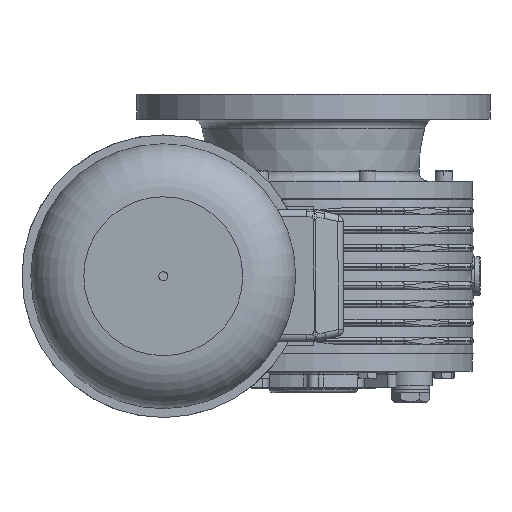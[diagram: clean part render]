
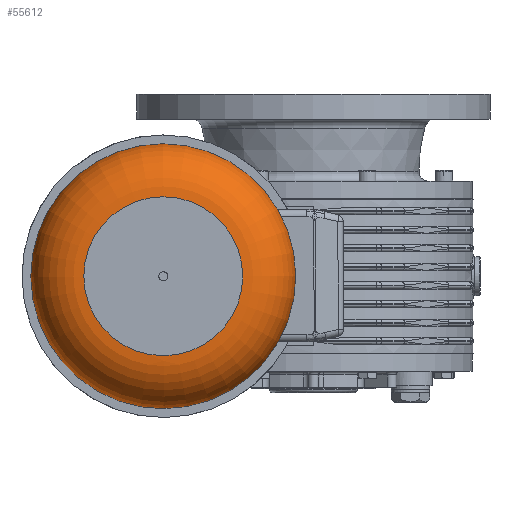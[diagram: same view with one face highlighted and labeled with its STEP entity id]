
A CAD part, left-side view. The second image highlights one B-rep face of the part: STEP entity #55612.
In plain terms, the highlighted toroidal (fillet/blend) face has major radius 45 mm and minor radius 30 mm.
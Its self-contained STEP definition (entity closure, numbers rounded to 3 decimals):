
#55585=CARTESIAN_POINT('',(314.0,0.0,0.0));
#55586=DIRECTION('',(1.0,0.0,0.0));
#55587=DIRECTION('',(0.0,0.0,-1.0));
#55588=AXIS2_PLACEMENT_3D('',#55585,#55586,#55587);
#55589=TOROIDAL_SURFACE('',#55588,45.,30.0);
#55590=CARTESIAN_POINT('',(344.0,45.,0.0));
#55591=VERTEX_POINT('',#55590);
#55592=CARTESIAN_POINT('',(344.0,0.0,0.0));
#55593=DIRECTION('',(1.0,0.0,0.0));
#55594=DIRECTION('',(0.0,1.0,0.0));
#55595=AXIS2_PLACEMENT_3D('',#55592,#55593,#55594);
#55596=CIRCLE('',#55595,45.);
#55597=EDGE_CURVE('',#55591,#55591,#55596,.T.);
#55598=ORIENTED_EDGE('',*,*,#55597,.F.);
#55599=EDGE_LOOP('',(#55598));
#55600=FACE_OUTER_BOUND('',#55599,.T.);
#55601=CARTESIAN_POINT('',(314.0,75.,0.0));
#55602=VERTEX_POINT('',#55601);
#55603=CARTESIAN_POINT('',(314.0,0.0,0.0));
#55604=DIRECTION('',(1.0,0.0,0.0));
#55605=DIRECTION('',(0.0,1.0,0.0));
#55606=AXIS2_PLACEMENT_3D('',#55603,#55604,#55605);
#55607=CIRCLE('',#55606,75.);
#55608=EDGE_CURVE('',#55602,#55602,#55607,.T.);
#55609=ORIENTED_EDGE('',*,*,#55608,.T.);
#55610=EDGE_LOOP('',(#55609));
#55611=FACE_BOUND('',#55610,.T.);
#55612=ADVANCED_FACE('',(#55600,#55611),#55589,.T.);
